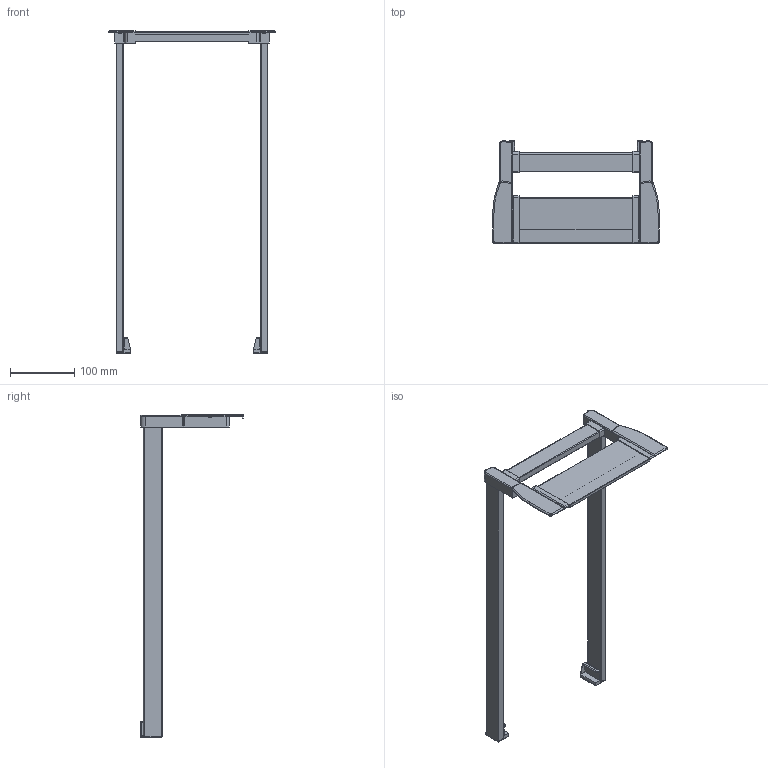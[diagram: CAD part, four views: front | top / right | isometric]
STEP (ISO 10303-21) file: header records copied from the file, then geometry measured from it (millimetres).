
FILE_DESCRIPTION (( 'STEP AP214' ), '1' );
FILE_NAME ('1_P620_NL 500_KAB 300_16er KS_.step', '2009-09-16T06:30:06', ( 'Waldinger Reinhard' ), ( 'Grass GmbH' ), 'SwSTEP 2.0', 'SolidWorks 2009', '' );
FILE_SCHEMA (( 'AUTOMOTIVE_DESIGN' ));
Length unit declared in the file: millimetre
Products named in the file (1): 1_P620_NL 500_KAB 300_16er KS_
Bounding box: 259.6 x 160.5 x 502.8 mm (x, y, z)
Volume: 639805.8 mm3; surface area: 157074.9 mm2
Topology: 1 solids, 1 shells, 218 faces, 576 edges, 364 vertices
Faces by surface type: plane 97, cylinder 89, torus 28, sphere 2, bspline 2
Entity records: 6974 total; most frequent: CARTESIAN_POINT 1341, DIRECTION 1192, ORIENTED_EDGE 1148, EDGE_CURVE 574, AXIS2_PLACEMENT_3D 431, VERTEX_POINT 364, VECTOR 330, LINE 330
